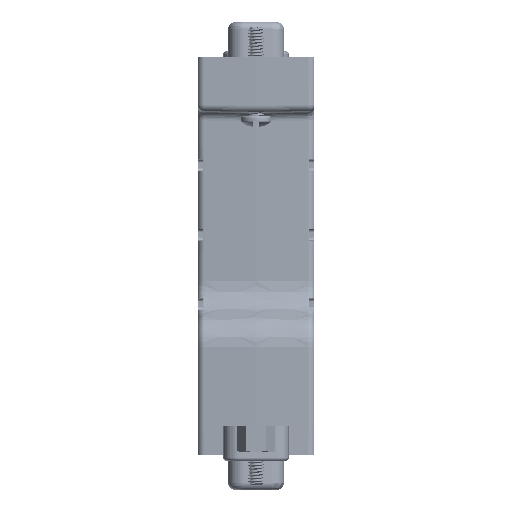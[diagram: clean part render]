
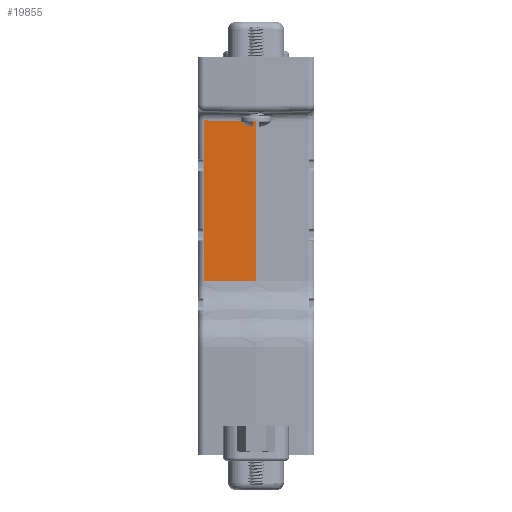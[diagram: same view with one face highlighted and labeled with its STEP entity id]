
A CAD part, left-side view. The second image highlights one B-rep face of the part: STEP entity #19855.
In plain terms, the highlighted planar face has unit normal (-1, 0.018, 0).
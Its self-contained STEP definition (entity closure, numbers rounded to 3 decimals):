
#549=PLANE('',#21331);
#2445=FACE_OUTER_BOUND('',#3672,.T.);
#3672=EDGE_LOOP('',(#14269,#14270,#14271,#14272));
#5112=LINE('',#32578,#6605);
#5342=LINE('',#33345,#6835);
#5349=LINE('',#33377,#6842);
#5357=LINE('',#33399,#6850);
#6605=VECTOR('',#23490,10.);
#6835=VECTOR('',#24160,10.);
#6842=VECTOR('',#24203,10.);
#6850=VECTOR('',#24229,10.);
#8239=VERTEX_POINT('',#32575);
#8240=VERTEX_POINT('',#32577);
#8469=VERTEX_POINT('',#33343);
#8476=VERTEX_POINT('',#33375);
#10280=EDGE_CURVE('',#8239,#8240,#5112,.T.);
#10625=EDGE_CURVE('',#8469,#8239,#5342,.T.);
#10641=EDGE_CURVE('',#8476,#8469,#5349,.T.);
#10652=EDGE_CURVE('',#8476,#8240,#5357,.T.);
#14269=ORIENTED_EDGE('',*,*,#10625,.F.);
#14270=ORIENTED_EDGE('',*,*,#10641,.F.);
#14271=ORIENTED_EDGE('',*,*,#10652,.T.);
#14272=ORIENTED_EDGE('',*,*,#10280,.F.);
#19855=ADVANCED_FACE('',(#2445),#549,.T.);
#21331=AXIS2_PLACEMENT_3D('',#33398,#24227,#24228);
#23490=DIRECTION('',(-0.017,-1.,-0.017));
#24160=DIRECTION('',(0.,0.,1.));
#24203=DIRECTION('',(0.017,1.,0.));
#24227=DIRECTION('center_axis',(-1.,0.017,0.));
#24228=DIRECTION('ref_axis',(0.,0.,1.));
#24229=DIRECTION('',(0.,0.,1.));
#32575=CARTESIAN_POINT('',(-9.672,7.347,-9.122));
#32577=CARTESIAN_POINT('',(-9.8,0.,-9.25));
#32578=CARTESIAN_POINT('',(-9.801,-0.037,-9.25));
#33343=CARTESIAN_POINT('',(-9.672,7.347,-31.98));
#33345=CARTESIAN_POINT('',(-9.672,7.347,-17.175));
#33375=CARTESIAN_POINT('',(-9.8,0.,-31.98));
#33377=CARTESIAN_POINT('',(-9.8,0.,-31.98));
#33398=CARTESIAN_POINT('Origin',(-9.8,0.,-8.));
#33399=CARTESIAN_POINT('',(-9.8,0.,-31.98));
